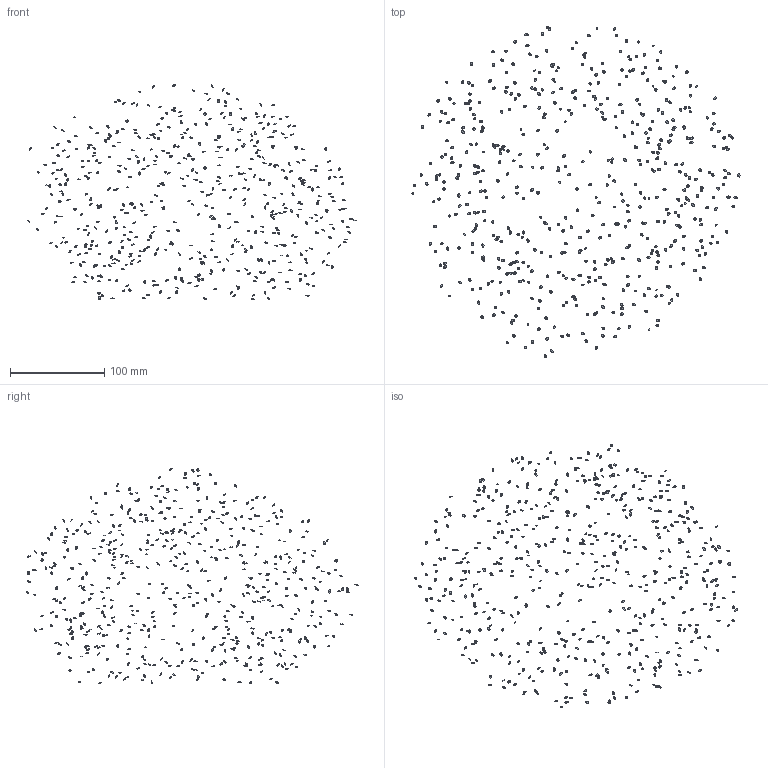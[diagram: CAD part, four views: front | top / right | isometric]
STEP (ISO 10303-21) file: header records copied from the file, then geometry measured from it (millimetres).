
FILE_DESCRIPTION(('Open CASCADE Model'),'2;1');
FILE_NAME('Open CASCADE Shape Model','2026-10-16T07:10:46',('Author'),( 'Open CASCADE'),'Open CASCADE STEP processor 7.9','Open CASCADE 7.9' ,'Unknown');
FILE_SCHEMA(('AUTOMOTIVE_DESIGN { 1 0 10303 214 1 1 1 1 }'));
Length unit declared in the file: millimetre
Products named in the file (568): Open CASCADE STEP translator 7.9 10; Open CASCADE STEP translator 7.9 10.1; Open CASCADE STEP translator 7.9 10.2; Open CASCADE STEP translator 7.9 10.3; Open CASCADE STEP translator 7.9 10.4; Open CASCADE STEP translator 7.9 10.5; Open CASCADE STEP translator 7.9 10.6; Open CASCADE STEP translator 7.9 10.7; Open CASCADE STEP translator 7.9 10.8; Open CASCADE STEP translator 7.9 10.9; Open CASCADE STEP translator 7.9 10.10; Open CASCADE STEP translator 7.9 10.11; Open CASCADE STEP translator 7.9 10.12; Open CASCADE STEP translator 7.9 10.13; Open CASCADE STEP translator 7.9 10.14; Open CASCADE STEP translator 7.9 10.15; Open CASCADE STEP translator 7.9 10.16; Open CASCADE STEP translator 7.9 10.17; Open CASCADE STEP translator 7.9 10.18; Open CASCADE STEP translator 7.9 10.19; Open CASCADE STEP translator 7.9 10.20; Open CASCADE STEP translator 7.9 10.21; Open CASCADE STEP translator 7.9 10.22; Open CASCADE STEP translator 7.9 10.23; Open CASCADE STEP translator 7.9 10.24; Open CASCADE STEP translator 7.9 10.25; Open CASCADE STEP translator 7.9 10.26; Open CASCADE STEP translator 7.9 10.27; Open CASCADE STEP translator 7.9 10.28; Open CASCADE STEP translator 7.9 10.29; Open CASCADE STEP translator 7.9 10.30; Open CASCADE STEP translator 7.9 10.31; Open CASCADE STEP translator 7.9 10.32; Open CASCADE STEP translator 7.9 10.33; Open CASCADE STEP translator 7.9 10.34; Open CASCADE STEP translator 7.9 10.35; Open CASCADE STEP translator 7.9 10.36; Open CASCADE STEP translator 7.9 10.37; Open CASCADE STEP translator 7.9 10.38; Open CASCADE STEP translator 7.9 10.39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
Assembly tree (567 placements, depth 2):
  Open CASCADE STEP translator 7.9 10
    Open CASCADE STEP translator 7.9 10.1
    Open CASCADE STEP translator 7.9 10.2
    Open CASCADE STEP translator 7.9 10.3
    Open CASCADE STEP translator 7.9 10.4
    Open CASCADE STEP translator 7.9 10.5
    Open CASCADE STEP translator 7.9 10.6
    Open CASCADE STEP translator 7.9 10.7
    Open CASCADE STEP translator 7.9 10.8
    Open CASCADE STEP translator 7.9 10.9
    Open CASCADE STEP translator 7.9 10.10
    Open CASCADE STEP translator 7.9 10.11
    Open CASCADE STEP translator 7.9 10.12
    Open CASCADE STEP translator 7.9 10.13
    Open CASCADE STEP translator 7.9 10.14
    Open CASCADE STEP translator 7.9 10.15
    Open CASCADE STEP translator 7.9 10.16
    Open CASCADE STEP translator 7.9 10.17
    Open CASCADE STEP translator 7.9 10.18
    Open CASCADE STEP translator 7.9 10.19
    Open CASCADE STEP translator 7.9 10.20
    Open CASCADE STEP translator 7.9 10.21
    Open CASCADE STEP translator 7.9 10.22
    Open CASCADE STEP translator 7.9 10.23
    Open CASCADE STEP translator 7.9 10.24
    Open CASCADE STEP translator 7.9 10.25
    Open CASCADE STEP translator 7.9 10.26
    Open CASCADE STEP translator 7.9 10.27
    Open CASCADE STEP translator 7.9 10.28
    Open CASCADE STEP translator 7.9 10.29
    Open CASCADE STEP translator 7.9 10.30
    Open CASCADE STEP translator 7.9 10.31
    Open CASCADE STEP translator 7.9 10.32
    Open CASCADE STEP translator 7.9 10.33
    Open CASCADE STEP translator 7.9 10.34
    Open CASCADE STEP translator 7.9 10.35
    Open CASCADE STEP translator 7.9 10.36
    Open CASCADE STEP translator 7.9 10.37
    Open CASCADE STEP translator 7.9 10.38
    Open CASCADE STEP translator 7.9 10.39
    Open CASCADE STEP translator 7.9 10.40
    Open CASCADE STEP translator 7.9 10.41
    Open CASCADE STEP translator 7.9 10.42
    Open CASCADE STEP translator 7.9 10.43
    Open CASCADE STEP translator 7.9 10.44
    Open CASCADE STEP translator 7.9 10.45
    Open CASCADE STEP translator 7.9 10.46
    Open CASCADE STEP translator 7.9 10.47
    Open CASCADE STEP translator 7.9 10.48
    Open CASCADE STEP translator 7.9 10.49
    Open CASCADE STEP translator 7.9 10.50
    Open CASCADE STEP translator 7.9 10.51
    Open CASCADE STEP translator 7.9 10.52
    Open CASCADE STEP translator 7.9 10.53
    Open CASCADE STEP translator 7.9 10.54
    Open CASCADE STEP translator 7.9 10.55
    Open CASCADE STEP translator 7.9 10.56
    Open CASCADE STEP translator 7.9 10.57
    Open CASCADE STEP translator 7.9 10.58
    Open CASCADE STEP translator 7.9 10.59
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Bounding box: 348.47 x 352.58 x 229.22 mm (x, y, z)
Volume: 2307.5 mm3; surface area: 9205.2 mm2
Topology: 567 solids, 567 shells, 567 faces, 1701 edges, 1134 vertices
Faces by surface type: bspline 567
Entity records: 34036 total; most frequent: CARTESIAN_POINT 20980, DIRECTION 1136, PRODUCT_DEFINITION_SHAPE 1135, SHAPE_DEFINITION_REPRESENTATION 568, PRODUCT_DEFINITION 568, PRODUCT_DEFINITION_FORMATION 568, PRODUCT 568, PRODUCT_CONTEXT 568
